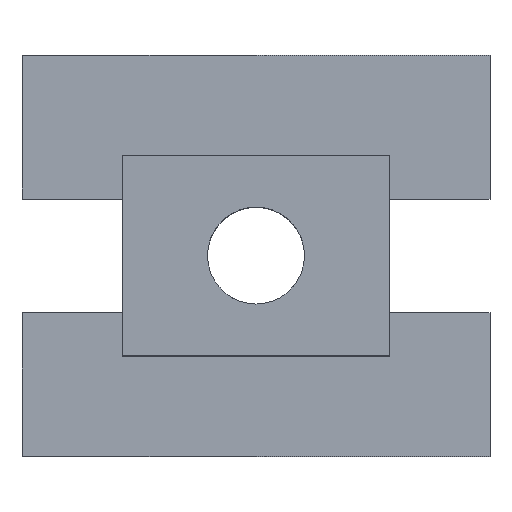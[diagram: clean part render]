
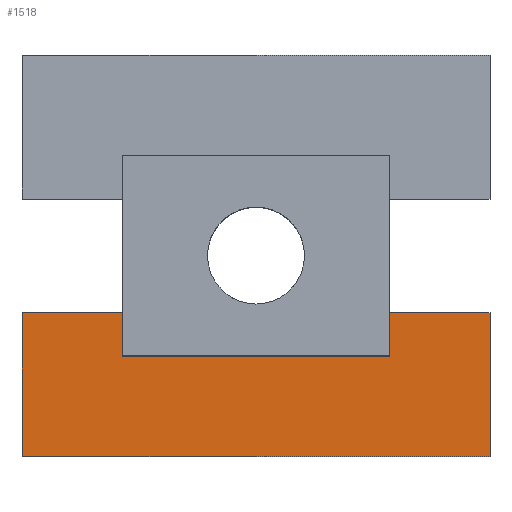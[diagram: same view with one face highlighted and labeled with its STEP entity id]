
A CAD part, top view. The second image highlights one B-rep face of the part: STEP entity #1518.
In plain terms, the highlighted planar face has unit normal (0, 0, 1).
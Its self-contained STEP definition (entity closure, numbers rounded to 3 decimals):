
#179 = PLANE('',#180);
#180 = AXIS2_PLACEMENT_3D('',#181,#182,#183);
#181 = CARTESIAN_POINT('',(-4.,-3.,6.));
#182 = DIRECTION('',(1.,0.,-0.));
#183 = DIRECTION('',(0.,0.,1.));
#235 = PLANE('',#236);
#236 = AXIS2_PLACEMENT_3D('',#237,#238,#239);
#237 = CARTESIAN_POINT('',(4.,-3.,6.));
#238 = DIRECTION('',(1.,0.,-0.));
#239 = DIRECTION('',(0.,0.,1.));
#745 = VERTEX_POINT('',#746);
#746 = CARTESIAN_POINT('',(4.,-3.,6.));
#762 = PLANE('',#763);
#763 = AXIS2_PLACEMENT_3D('',#764,#765,#766);
#764 = CARTESIAN_POINT('',(-4.,-3.,6.));
#765 = DIRECTION('',(-0.,1.,0.));
#766 = DIRECTION('',(0.,0.,1.));
#774 = EDGE_CURVE('',#745,#775,#777,.T.);
#775 = VERTEX_POINT('',#776);
#776 = CARTESIAN_POINT('',(4.,-1.7,6.));
#777 = SURFACE_CURVE('',#778,(#782,#789),.PCURVE_S1.);
#778 = LINE('',#779,#780);
#779 = CARTESIAN_POINT('',(4.,-3.,6.));
#780 = VECTOR('',#781,1.);
#781 = DIRECTION('',(-0.,1.,0.));
#782 = PCURVE('',#235,#783);
#783 = DEFINITIONAL_REPRESENTATION('',(#784),#788);
#784 = LINE('',#785,#786);
#785 = CARTESIAN_POINT('',(0.,0.));
#786 = VECTOR('',#787,1.);
#787 = DIRECTION('',(0.,-1.));
#788 = ( GEOMETRIC_REPRESENTATION_CONTEXT(2) 
PARAMETRIC_REPRESENTATION_CONTEXT() REPRESENTATION_CONTEXT('2D SPACE',''
  ) );
#789 = PCURVE('',#790,#795);
#790 = PLANE('',#791);
#791 = AXIS2_PLACEMENT_3D('',#792,#793,#794);
#792 = CARTESIAN_POINT('',(-7.,-6.,6.));
#793 = DIRECTION('',(0.,0.,1.));
#794 = DIRECTION('',(1.,0.,-0.));
#795 = DEFINITIONAL_REPRESENTATION('',(#796),#800);
#796 = LINE('',#797,#798);
#797 = CARTESIAN_POINT('',(11.,3.));
#798 = VECTOR('',#799,1.);
#799 = DIRECTION('',(0.,1.));
#800 = ( GEOMETRIC_REPRESENTATION_CONTEXT(2) 
PARAMETRIC_REPRESENTATION_CONTEXT() REPRESENTATION_CONTEXT('2D SPACE',''
  ) );
#961 = VERTEX_POINT('',#962);
#962 = CARTESIAN_POINT('',(-4.,-3.,6.));
#985 = EDGE_CURVE('',#961,#986,#988,.T.);
#986 = VERTEX_POINT('',#987);
#987 = CARTESIAN_POINT('',(-4.,-1.7,6.));
#988 = SURFACE_CURVE('',#989,(#993,#1000),.PCURVE_S1.);
#989 = LINE('',#990,#991);
#990 = CARTESIAN_POINT('',(-4.,-3.,6.));
#991 = VECTOR('',#992,1.);
#992 = DIRECTION('',(-0.,1.,0.));
#993 = PCURVE('',#179,#994);
#994 = DEFINITIONAL_REPRESENTATION('',(#995),#999);
#995 = LINE('',#996,#997);
#996 = CARTESIAN_POINT('',(0.,0.));
#997 = VECTOR('',#998,1.);
#998 = DIRECTION('',(0.,-1.));
#999 = ( GEOMETRIC_REPRESENTATION_CONTEXT(2) 
PARAMETRIC_REPRESENTATION_CONTEXT() REPRESENTATION_CONTEXT('2D SPACE',''
  ) );
#1000 = PCURVE('',#790,#1001);
#1001 = DEFINITIONAL_REPRESENTATION('',(#1002),#1006);
#1002 = LINE('',#1003,#1004);
#1003 = CARTESIAN_POINT('',(3.,3.));
#1004 = VECTOR('',#1005,1.);
#1005 = DIRECTION('',(0.,1.));
#1006 = ( GEOMETRIC_REPRESENTATION_CONTEXT(2) 
PARAMETRIC_REPRESENTATION_CONTEXT() REPRESENTATION_CONTEXT('2D SPACE',''
  ) );
#1352 = PLANE('',#1353);
#1353 = AXIS2_PLACEMENT_3D('',#1354,#1355,#1356);
#1354 = CARTESIAN_POINT('',(-7.01,-1.7,1.99));
#1355 = DIRECTION('',(-0.,1.,0.));
#1356 = DIRECTION('',(0.,0.,1.));
#1407 = EDGE_CURVE('',#961,#745,#1408,.T.);
#1408 = SURFACE_CURVE('',#1409,(#1413,#1420),.PCURVE_S1.);
#1409 = LINE('',#1410,#1411);
#1410 = CARTESIAN_POINT('',(-4.,-3.,6.));
#1411 = VECTOR('',#1412,1.);
#1412 = DIRECTION('',(1.,0.,-0.));
#1413 = PCURVE('',#762,#1414);
#1414 = DEFINITIONAL_REPRESENTATION('',(#1415),#1419);
#1415 = LINE('',#1416,#1417);
#1416 = CARTESIAN_POINT('',(0.,0.));
#1417 = VECTOR('',#1418,1.);
#1418 = DIRECTION('',(0.,1.));
#1419 = ( GEOMETRIC_REPRESENTATION_CONTEXT(2) 
PARAMETRIC_REPRESENTATION_CONTEXT() REPRESENTATION_CONTEXT('2D SPACE',''
  ) );
#1420 = PCURVE('',#790,#1421);
#1421 = DEFINITIONAL_REPRESENTATION('',(#1422),#1426);
#1422 = LINE('',#1423,#1424);
#1423 = CARTESIAN_POINT('',(3.,3.));
#1424 = VECTOR('',#1425,1.);
#1425 = DIRECTION('',(1.,0.));
#1426 = ( GEOMETRIC_REPRESENTATION_CONTEXT(2) 
PARAMETRIC_REPRESENTATION_CONTEXT() REPRESENTATION_CONTEXT('2D SPACE',''
  ) );
#1518 = ADVANCED_FACE('',(#1519),#790,.T.);
#1519 = FACE_BOUND('',#1520,.T.);
#1520 = EDGE_LOOP('',(#1521,#1551,#1579,#1607,#1627,#1628,#1629,#1630));
#1521 = ORIENTED_EDGE('',*,*,#1522,.F.);
#1522 = EDGE_CURVE('',#1523,#1525,#1527,.T.);
#1523 = VERTEX_POINT('',#1524);
#1524 = CARTESIAN_POINT('',(-7.,-6.,6.));
#1525 = VERTEX_POINT('',#1526);
#1526 = CARTESIAN_POINT('',(-7.,-1.7,6.));
#1527 = SURFACE_CURVE('',#1528,(#1532,#1539),.PCURVE_S1.);
#1528 = LINE('',#1529,#1530);
#1529 = CARTESIAN_POINT('',(-7.,-6.,6.));
#1530 = VECTOR('',#1531,1.);
#1531 = DIRECTION('',(-0.,1.,0.));
#1532 = PCURVE('',#790,#1533);
#1533 = DEFINITIONAL_REPRESENTATION('',(#1534),#1538);
#1534 = LINE('',#1535,#1536);
#1535 = CARTESIAN_POINT('',(0.,0.));
#1536 = VECTOR('',#1537,1.);
#1537 = DIRECTION('',(0.,1.));
#1538 = ( GEOMETRIC_REPRESENTATION_CONTEXT(2) 
PARAMETRIC_REPRESENTATION_CONTEXT() REPRESENTATION_CONTEXT('2D SPACE',''
  ) );
#1539 = PCURVE('',#1540,#1545);
#1540 = PLANE('',#1541);
#1541 = AXIS2_PLACEMENT_3D('',#1542,#1543,#1544);
#1542 = CARTESIAN_POINT('',(-7.,-6.,2.));
#1543 = DIRECTION('',(1.,0.,-0.));
#1544 = DIRECTION('',(0.,0.,1.));
#1545 = DEFINITIONAL_REPRESENTATION('',(#1546),#1550);
#1546 = LINE('',#1547,#1548);
#1547 = CARTESIAN_POINT('',(4.,0.));
#1548 = VECTOR('',#1549,1.);
#1549 = DIRECTION('',(0.,-1.));
#1550 = ( GEOMETRIC_REPRESENTATION_CONTEXT(2) 
PARAMETRIC_REPRESENTATION_CONTEXT() REPRESENTATION_CONTEXT('2D SPACE',''
  ) );
#1551 = ORIENTED_EDGE('',*,*,#1552,.T.);
#1552 = EDGE_CURVE('',#1523,#1553,#1555,.T.);
#1553 = VERTEX_POINT('',#1554);
#1554 = CARTESIAN_POINT('',(7.,-6.,6.));
#1555 = SURFACE_CURVE('',#1556,(#1560,#1567),.PCURVE_S1.);
#1556 = LINE('',#1557,#1558);
#1557 = CARTESIAN_POINT('',(-7.,-6.,6.));
#1558 = VECTOR('',#1559,1.);
#1559 = DIRECTION('',(1.,0.,-0.));
#1560 = PCURVE('',#790,#1561);
#1561 = DEFINITIONAL_REPRESENTATION('',(#1562),#1566);
#1562 = LINE('',#1563,#1564);
#1563 = CARTESIAN_POINT('',(0.,0.));
#1564 = VECTOR('',#1565,1.);
#1565 = DIRECTION('',(1.,0.));
#1566 = ( GEOMETRIC_REPRESENTATION_CONTEXT(2) 
PARAMETRIC_REPRESENTATION_CONTEXT() REPRESENTATION_CONTEXT('2D SPACE',''
  ) );
#1567 = PCURVE('',#1568,#1573);
#1568 = PLANE('',#1569);
#1569 = AXIS2_PLACEMENT_3D('',#1570,#1571,#1572);
#1570 = CARTESIAN_POINT('',(-7.,-6.,2.));
#1571 = DIRECTION('',(-0.,1.,0.));
#1572 = DIRECTION('',(0.,0.,1.));
#1573 = DEFINITIONAL_REPRESENTATION('',(#1574),#1578);
#1574 = LINE('',#1575,#1576);
#1575 = CARTESIAN_POINT('',(4.,0.));
#1576 = VECTOR('',#1577,1.);
#1577 = DIRECTION('',(0.,1.));
#1578 = ( GEOMETRIC_REPRESENTATION_CONTEXT(2) 
PARAMETRIC_REPRESENTATION_CONTEXT() REPRESENTATION_CONTEXT('2D SPACE',''
  ) );
#1579 = ORIENTED_EDGE('',*,*,#1580,.T.);
#1580 = EDGE_CURVE('',#1553,#1581,#1583,.T.);
#1581 = VERTEX_POINT('',#1582);
#1582 = CARTESIAN_POINT('',(7.,-1.7,6.));
#1583 = SURFACE_CURVE('',#1584,(#1588,#1595),.PCURVE_S1.);
#1584 = LINE('',#1585,#1586);
#1585 = CARTESIAN_POINT('',(7.,-6.,6.));
#1586 = VECTOR('',#1587,1.);
#1587 = DIRECTION('',(-0.,1.,0.));
#1588 = PCURVE('',#790,#1589);
#1589 = DEFINITIONAL_REPRESENTATION('',(#1590),#1594);
#1590 = LINE('',#1591,#1592);
#1591 = CARTESIAN_POINT('',(14.,0.));
#1592 = VECTOR('',#1593,1.);
#1593 = DIRECTION('',(0.,1.));
#1594 = ( GEOMETRIC_REPRESENTATION_CONTEXT(2) 
PARAMETRIC_REPRESENTATION_CONTEXT() REPRESENTATION_CONTEXT('2D SPACE',''
  ) );
#1595 = PCURVE('',#1596,#1601);
#1596 = PLANE('',#1597);
#1597 = AXIS2_PLACEMENT_3D('',#1598,#1599,#1600);
#1598 = CARTESIAN_POINT('',(7.,-6.,2.));
#1599 = DIRECTION('',(1.,0.,-0.));
#1600 = DIRECTION('',(0.,0.,1.));
#1601 = DEFINITIONAL_REPRESENTATION('',(#1602),#1606);
#1602 = LINE('',#1603,#1604);
#1603 = CARTESIAN_POINT('',(4.,0.));
#1604 = VECTOR('',#1605,1.);
#1605 = DIRECTION('',(0.,-1.));
#1606 = ( GEOMETRIC_REPRESENTATION_CONTEXT(2) 
PARAMETRIC_REPRESENTATION_CONTEXT() REPRESENTATION_CONTEXT('2D SPACE',''
  ) );
#1607 = ORIENTED_EDGE('',*,*,#1608,.T.);
#1608 = EDGE_CURVE('',#1581,#775,#1609,.T.);
#1609 = SURFACE_CURVE('',#1610,(#1614,#1620),.PCURVE_S1.);
#1610 = LINE('',#1611,#1612);
#1611 = CARTESIAN_POINT('',(-7.005,-1.7,6.));
#1612 = VECTOR('',#1613,1.);
#1613 = DIRECTION('',(-1.,-0.,0.));
#1614 = PCURVE('',#790,#1615);
#1615 = DEFINITIONAL_REPRESENTATION('',(#1616),#1619);
#1616 = B_SPLINE_CURVE_WITH_KNOTS('',1,(#1617,#1618),.UNSPECIFIED.,.F.,
  .F.,(2,2),(-14.005,-0.005),.PIECEWISE_BEZIER_KNOTS.);
#1617 = CARTESIAN_POINT('',(14.,4.3));
#1618 = CARTESIAN_POINT('',(0.,4.3));
#1619 = ( GEOMETRIC_REPRESENTATION_CONTEXT(2) 
PARAMETRIC_REPRESENTATION_CONTEXT() REPRESENTATION_CONTEXT('2D SPACE',''
  ) );
#1620 = PCURVE('',#1352,#1621);
#1621 = DEFINITIONAL_REPRESENTATION('',(#1622),#1626);
#1622 = LINE('',#1623,#1624);
#1623 = CARTESIAN_POINT('',(4.01,0.005));
#1624 = VECTOR('',#1625,1.);
#1625 = DIRECTION('',(0.,-1.));
#1626 = ( GEOMETRIC_REPRESENTATION_CONTEXT(2) 
PARAMETRIC_REPRESENTATION_CONTEXT() REPRESENTATION_CONTEXT('2D SPACE',''
  ) );
#1627 = ORIENTED_EDGE('',*,*,#774,.F.);
#1628 = ORIENTED_EDGE('',*,*,#1407,.F.);
#1629 = ORIENTED_EDGE('',*,*,#985,.T.);
#1630 = ORIENTED_EDGE('',*,*,#1631,.T.);
#1631 = EDGE_CURVE('',#986,#1525,#1632,.T.);
#1632 = SURFACE_CURVE('',#1633,(#1637,#1643),.PCURVE_S1.);
#1633 = LINE('',#1634,#1635);
#1634 = CARTESIAN_POINT('',(-7.005,-1.7,6.));
#1635 = VECTOR('',#1636,1.);
#1636 = DIRECTION('',(-1.,-0.,0.));
#1637 = PCURVE('',#790,#1638);
#1638 = DEFINITIONAL_REPRESENTATION('',(#1639),#1642);
#1639 = B_SPLINE_CURVE_WITH_KNOTS('',1,(#1640,#1641),.UNSPECIFIED.,.F.,
  .F.,(2,2),(-14.005,-0.005),.PIECEWISE_BEZIER_KNOTS.);
#1640 = CARTESIAN_POINT('',(14.,4.3));
#1641 = CARTESIAN_POINT('',(0.,4.3));
#1642 = ( GEOMETRIC_REPRESENTATION_CONTEXT(2) 
PARAMETRIC_REPRESENTATION_CONTEXT() REPRESENTATION_CONTEXT('2D SPACE',''
  ) );
#1643 = PCURVE('',#1352,#1644);
#1644 = DEFINITIONAL_REPRESENTATION('',(#1645),#1649);
#1645 = LINE('',#1646,#1647);
#1646 = CARTESIAN_POINT('',(4.01,0.005));
#1647 = VECTOR('',#1648,1.);
#1648 = DIRECTION('',(0.,-1.));
#1649 = ( GEOMETRIC_REPRESENTATION_CONTEXT(2) 
PARAMETRIC_REPRESENTATION_CONTEXT() REPRESENTATION_CONTEXT('2D SPACE',''
  ) );
